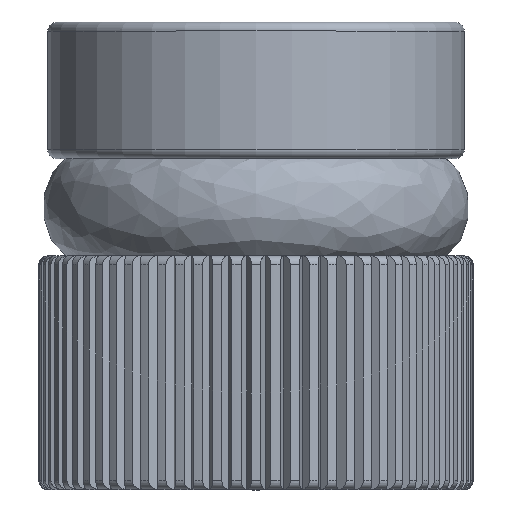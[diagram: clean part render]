
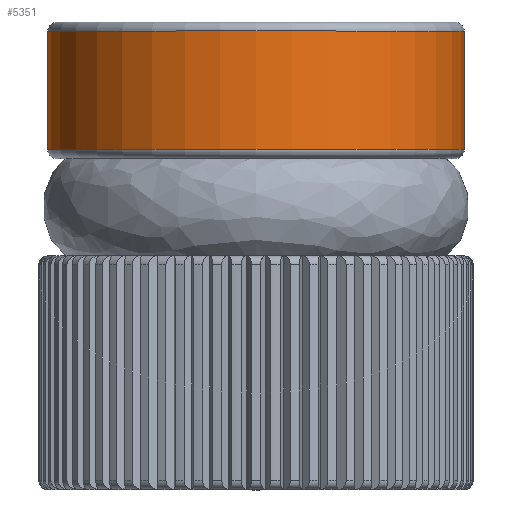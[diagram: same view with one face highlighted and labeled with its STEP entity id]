
A CAD part, top view. The second image highlights one B-rep face of the part: STEP entity #5351.
In plain terms, the highlighted cylindrical face has radius 3.531 mm (diameter 7.061 mm), a full revolution.
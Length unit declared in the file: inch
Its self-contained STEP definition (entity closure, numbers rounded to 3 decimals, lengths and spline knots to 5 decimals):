
#667=CYLINDRICAL_SURFACE('',#6023,0.139);
#1024=FACE_OUTER_BOUND('',#1391,.T.);
#1391=EDGE_LOOP('',(#4882,#4883,#4884,#4885,#4886,#4887));
#1619=LINE('',#11703,#1834);
#1834=VECTOR('',#7561,0.139);
#2122=CIRCLE('',#6018,0.139);
#2126=CIRCLE('',#6022,0.139);
#2127=CIRCLE('',#6024,0.139);
#2128=CIRCLE('',#6025,0.139);
#2568=VERTEX_POINT('',#11689);
#2569=VERTEX_POINT('',#11690);
#2572=VERTEX_POINT('',#11699);
#2573=VERTEX_POINT('',#11700);
#3364=EDGE_CURVE('',#2568,#2569,#2122,.T.);
#3368=EDGE_CURVE('',#2569,#2568,#2126,.T.);
#3369=EDGE_CURVE('',#2572,#2573,#2127,.T.);
#3370=EDGE_CURVE('',#2573,#2572,#2128,.T.);
#3371=EDGE_CURVE('',#2573,#2569,#1619,.T.);
#4882=ORIENTED_EDGE('',*,*,#3369,.F.);
#4883=ORIENTED_EDGE('',*,*,#3370,.F.);
#4884=ORIENTED_EDGE('',*,*,#3371,.T.);
#4885=ORIENTED_EDGE('',*,*,#3364,.F.);
#4886=ORIENTED_EDGE('',*,*,#3368,.F.);
#4887=ORIENTED_EDGE('',*,*,#3371,.F.);
#5351=ADVANCED_FACE('',(#1024),#667,.T.);
#6018=AXIS2_PLACEMENT_3D('',#11691,#7545,#7546);
#6022=AXIS2_PLACEMENT_3D('',#11697,#7553,#7554);
#6023=AXIS2_PLACEMENT_3D('',#11698,#7555,#7556);
#6024=AXIS2_PLACEMENT_3D('',#11701,#7557,#7558);
#6025=AXIS2_PLACEMENT_3D('',#11702,#7559,#7560);
#7545=DIRECTION('center_axis',(0.,1.,0.));
#7546=DIRECTION('ref_axis',(0.,0.,1.));
#7553=DIRECTION('center_axis',(0.,1.,0.));
#7554=DIRECTION('ref_axis',(0.,0.,1.));
#7555=DIRECTION('center_axis',(0.,-1.,0.));
#7556=DIRECTION('ref_axis',(0.,0.,-1.));
#7557=DIRECTION('center_axis',(0.,-1.,0.));
#7558=DIRECTION('ref_axis',(0.,0.,1.));
#7559=DIRECTION('center_axis',(0.,-1.,0.));
#7560=DIRECTION('ref_axis',(0.,0.,1.));
#7561=DIRECTION('',(0.,1.,0.));
#11689=CARTESIAN_POINT('',(0.,0.306,-0.139));
#11690=CARTESIAN_POINT('',(0.,0.306,0.139));
#11691=CARTESIAN_POINT('Origin',(0.,0.306,0.));
#11697=CARTESIAN_POINT('Origin',(0.,0.306,0.));
#11698=CARTESIAN_POINT('Origin',(0.,0.2665,0.));
#11699=CARTESIAN_POINT('',(0.,0.227,-0.139));
#11700=CARTESIAN_POINT('',(0.,0.227,0.139));
#11701=CARTESIAN_POINT('Origin',(0.,0.227,0.));
#11702=CARTESIAN_POINT('Origin',(0.,0.227,0.));
#11703=CARTESIAN_POINT('',(0.,0.2665,0.139));
